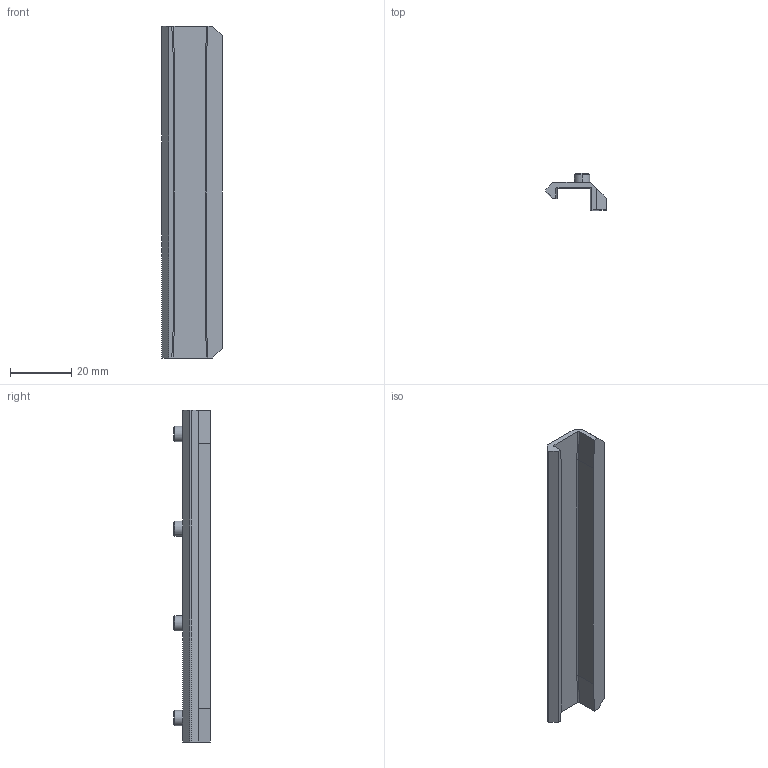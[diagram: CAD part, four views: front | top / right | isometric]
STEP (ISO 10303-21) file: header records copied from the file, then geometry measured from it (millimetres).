
FILE_DESCRIPTION (( 'STEP AP214' ), '1' );
FILE_NAME ('Seat Rail Insert Short.STEP', '2024-10-21T21:45:00', ( '' ), ( '' ), 'SwSTEP 2.0', 'SolidWorks 2011', '' );
FILE_SCHEMA (( 'AUTOMOTIVE_DESIGN' ));
Length unit declared in the file: inch
Products named in the file (1): Seat Rail Insert Short
Bounding box: 19.81 x 11.92 x 108.53 mm (x, y, z)
Volume: 7292.1 mm3; surface area: 6610.7 mm2
Topology: 1 solids, 1 shells, 45 faces, 105 edges, 66 vertices
Faces by surface type: plane 23, cylinder 14, cone 8
Entity records: 1307 total; most frequent: CARTESIAN_POINT 241, DIRECTION 213, ORIENTED_EDGE 210, EDGE_CURVE 105, LINE 73, VECTOR 73, AXIS2_PLACEMENT_3D 70, VERTEX_POINT 66
